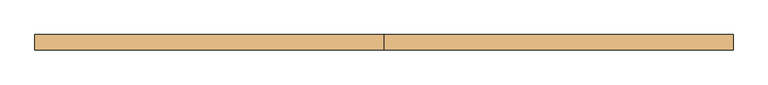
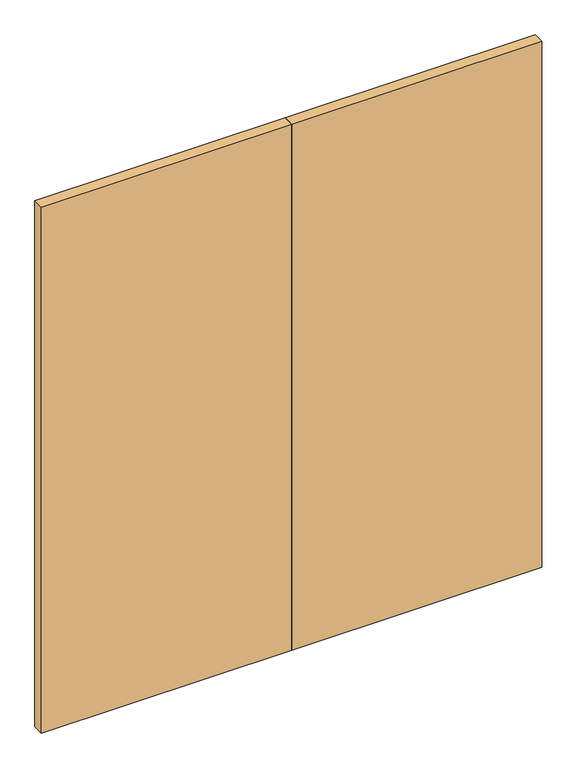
"""IFC4 building model written with IfcOpenShell, lengths in millimetres: door geometry, 営_両開き扉 : SD8 1800*2000."""

from ifc_helpers import new_model, si_unit, origin, origin_with_axes, place, context, project, spatial, polyline, outline, extrude, source, transform, mapped, element, save


def door_d86e35d7(model_context):
    return source(origin(), model_context, "Body", "SweptSolid", [
        extrude(outline(polyline([(0.0, 15.0), (0.0, 55.0), (900.0, 55.0), (900.0, 15.0), (0.0, 15.0)])), origin_with_axes(), (0.0, 0.0, 1.0), 2000.0),
        extrude(outline(polyline([(0.0, 15.0), (-900.0, 15.0), (-900.0, 55.0), (0.0, 55.0), (0.0, 15.0)])), origin_with_axes(), (0.0, 0.0, 1.0), 2000.0),
    ])


if __name__ == "__main__":
    model = new_model("IFC4")
    model_context = context("Model", 3, world=origin())
    ifc_project = project(units=[si_unit("LENGTHUNIT", "METRE", prefix="MILLI")], contexts=[model_context])
    site = spatial("IfcSite", under=ifc_project)
    building = spatial("IfcBuilding", under=site)
    placement = place(None, origin())
    door_shape = door_d86e35d7(model_context)
    element("IfcDoor", 1, ObjectType="営_両開き扉 : SD8 1800*2000", at=placement, inside=building, context=model_context, shape_type="MappedRepresentation", body=[
        mapped(door_shape, transform((0.0, 0.0, 0.0), x_axis=(1.0, 0.0, 0.0), y_axis=(0.0, 1.0, 0.0), z_axis=(0.0, 0.0, 1.0))),
    ])
    save(model, "model.ifc")
